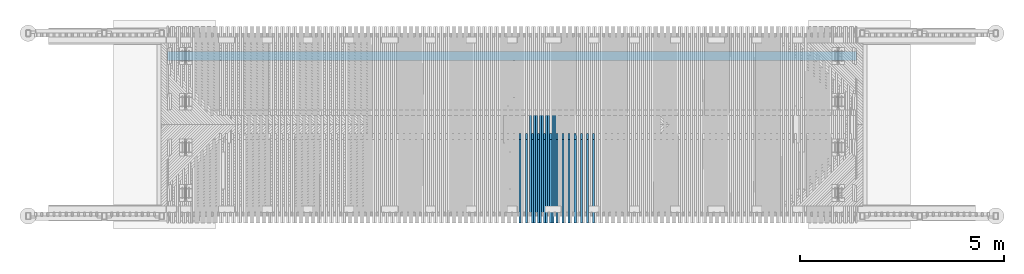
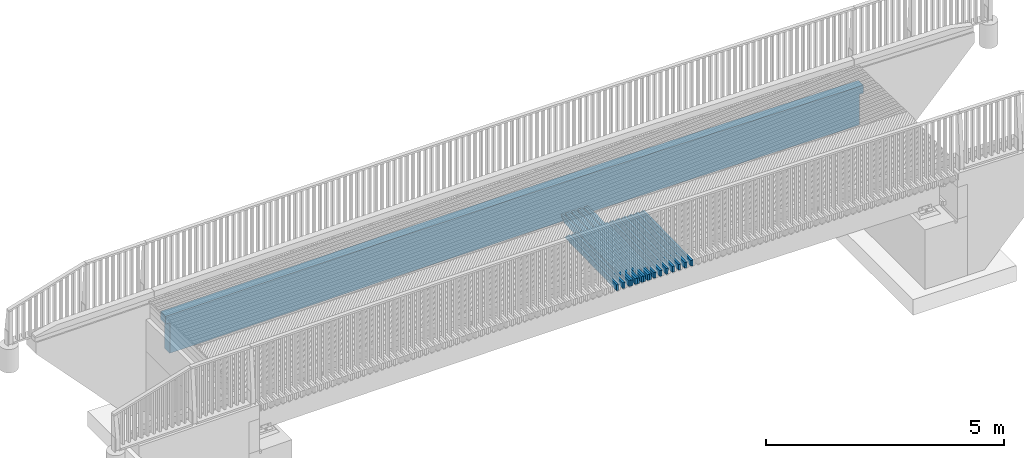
# One storey, part 29 of 47: 23 beams.
"""IFC2X3 building model written with IfcOpenShell, lengths in millimetres."""

from ifc_helpers import new_model, si_unit, frame, origin_with_axes, place, context, subcontext, project, spatial, faceted_brep, material, type_object, element, save


model = new_model("IFC2X3")

# Units and contexts
model_context = context("Model", 3, precision=1e-05, world=origin_with_axes())
body_context = subcontext(model_context, "Body", "Model", "MODEL_VIEW")
ifc_project = project(units=[si_unit("LENGTHUNIT", "METRE", prefix="MILLI"), si_unit("AREAUNIT", "SQUARE_METRE"), si_unit("VOLUMEUNIT", "CUBIC_METRE"), si_unit("MASSUNIT", "GRAM", prefix="KILO"), si_unit("TIMEUNIT", "SECOND"), si_unit("PLANEANGLEUNIT", "RADIAN"), si_unit("SOLIDANGLEUNIT", "STERADIAN"), si_unit("THERMODYNAMICTEMPERATUREUNIT", "DEGREE_CELSIUS"), si_unit("LUMINOUSINTENSITYUNIT", "LUMEN")], contexts=[model_context])

# Site, building, storey
site_placement = place(None, origin_with_axes())
site = spatial("IfcSite", under=ifc_project, at=site_placement, Name="Undefined", CompositionType="ELEMENT")
building_placement = place(site_placement, origin_with_axes())
building = spatial("IfcBuilding", under=site, at=building_placement, Name="Undefined", CompositionType="ELEMENT")
storey_placement = place(building_placement, origin_with_axes())
storey = spatial("IfcBuildingStorey", under=building, at=storey_placement, Name="Undefined", CompositionType="ELEMENT", Elevation=0.0)

# Beams
ifc_material = material(Name="TIMBER/Timber_Undefined")
beam_type_1 = type_object("IfcBeamType", Name="150*50", PredefinedType="NOTDEFINED")
for number, where, z_axis, x_axis, name in (
    (1, (10000.2217509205, 59958.5561921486, 3084.66693727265), (0.00324112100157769, -0.0199960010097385, 0.999794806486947), (6.45149999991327e-05, 0.999800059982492, 0.0199958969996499), "BEAM"),
    (2, (9850.19375383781, 59958.5561921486, 3085.14676261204), (0.00299193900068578, -0.0199960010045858, 0.999795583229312), (5.95309999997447e-05, 0.999800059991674, 0.0199959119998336), "BEAM"),
    (3, (9700.16564182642, 59958.5561921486, 3085.58919600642), (0.00274275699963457, -0.0199960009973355, 0.999796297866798), (5.45469999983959e-05, 0.999800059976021, 0.0199959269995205), "BEAM"),
    (4, (9550.13742420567, 59958.5561921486, 3085.99423742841), (0.00249357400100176, -0.019996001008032, 0.999796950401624), (4.95639999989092e-05, 0.999800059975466, 0.0199959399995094), "BEAM"),
    (5, (9400.10911029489, 59958.5561921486, 3086.361886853), (0.00224439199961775, -0.0199960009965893, 0.99979754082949), (4.45799999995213e-05, 0.999800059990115, 0.0199959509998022), "BEAM"),
    (6, (9250.0807094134, 59958.5561921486, 3086.69214425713), (0.0019952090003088, -0.0199960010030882, 0.999798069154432), (3.95959999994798e-05, 0.999800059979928, 0.0199959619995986), "BEAM"),
    (7, (9100.05223088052, 59958.5561921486, 3086.98500962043), (0.00174602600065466, -0.0199960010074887, 0.999798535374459), (3.46129999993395e-05, 0.999800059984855, 0.0199959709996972), "BEAM"),
):
    element("IfcBeam", number, at=place(storey_placement, frame(where, z_axis=z_axis, x_axis=x_axis)), inside=storey, type_object=beam_type_1, material=ifc_material, Name=name, ObjectType="150*50", context=body_context, shape_type="Brep", body=[
        faceted_brep([(6.18456397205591e-09, -24.9999999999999, -75.0000000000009), (-6.1918399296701e-09, -24.9999999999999, 74.9999999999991), (-6.19911588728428e-09, 25.0, 75.0), (6.18456397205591e-09, 24.9999999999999, -75.0), (2047.96936034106, -25.0000000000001, 75.0), (2047.96935975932, 25.0, 75.0), (2186.42645864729, 25.0, -75.0), (2186.42645915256, -25.0000000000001, -75.0)], [[[0, 1, 2, 3]], [[2, 1, 4, 5]], [[3, 2, 5, 6]], [[0, 3, 6, 7]], [[1, 0, 7, 4]], [[4, 7, 6, 5]]]),
    ])
beam_1_placement = place(storey_placement, frame((9049.97565086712, 60216.5046076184, 3092.2320847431), z_axis=(0.00174602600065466, -0.0199960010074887, 0.999798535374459), x_axis=(3.46129999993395e-05, 0.999800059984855, 0.0199959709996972)))
element("IfcBeam", 8, at=beam_1_placement, inside=storey, type_object=beam_type_1, material=ifc_material, Name="BEAM", ObjectType="150*50", context=body_context, shape_type="Brep", body=[
    faceted_brep([(6.18456397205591e-09, -24.9999999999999, -75.0000000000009), (-6.1918399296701e-09, -24.9999999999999, 74.9999999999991), (-6.19911588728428e-09, 25.0, 75.0), (6.18456397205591e-09, 24.9999999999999, -75.0), (2375.00494220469, 24.9999999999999, -75.0000000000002), (2375.00494218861, -25.0, -75.0), (2510.59248711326, -25.0, 60.5875455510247), (2150.42518973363, -25.0, 75.0000000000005), (2150.42518840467, 25.0, 74.9999999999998), (2510.59248707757, 25.0, 60.5875454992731)], [[[0, 1, 2, 3]], [[0, 3, 4, 5]], [[1, 0, 5, 6, 7]], [[2, 1, 7, 8]], [[4, 3, 2, 8, 9]], [[5, 4, 9, 6]], [[8, 7, 6, 9]]]),
])
beam_2_placement = place(storey_placement, frame((9000.06218519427, 59958.5561921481, 3087.15810196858), z_axis=(0.00166366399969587, -0.0199960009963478, 0.999798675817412), x_axis=(3.32729999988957e-05, 0.999800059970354, 0.0199959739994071)))
element("IfcBeam", 9, at=beam_2_placement, inside=storey, type_object=beam_type_1, material=ifc_material, Name="BEAM", ObjectType="150*50", context=body_context, shape_type="Brep", body=[
    faceted_brep([(6.18456397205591e-09, -24.9999999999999, -75.0000000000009), (-6.1918399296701e-09, -24.9999999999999, 74.9999999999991), (-6.19911588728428e-09, 25.0, 75.0), (6.18456397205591e-09, 24.9999999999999, -75.0), (2633.00494983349, 25.0000000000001, -75.0000000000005), (2633.00495050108, -24.9999999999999, -75.0000000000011), (2768.59248707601, -25.0, 60.5875366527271), (2408.42499905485, -25.0, 74.9999999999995), (2408.42501428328, 25.0000000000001, 74.9999999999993), (2768.5924870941, 25.0, 60.5875375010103)], [[[0, 1, 2, 3]], [[0, 3, 4, 5]], [[1, 0, 5, 6, 7]], [[2, 1, 7, 8]], [[4, 3, 2, 8, 9]], [[5, 4, 9, 6]], [[8, 7, 6, 9]]]),
])
beam_3_placement = place(storey_placement, frame((8950.02368401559, 59958.5561921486, 3087.24048292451), z_axis=(0.00149684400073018, -0.0199960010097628, 0.999798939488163), x_axis=(2.96289999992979e-05, 0.999800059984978, 0.0199959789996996)))
element("IfcBeam", 10, at=beam_3_placement, inside=storey, type_object=beam_type_1, material=ifc_material, Name="BEAM", ObjectType="150*50", context=body_context, shape_type="Brep", body=[
    faceted_brep([(6.18456397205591e-09, -24.9999999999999, -75.0000000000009), (-6.1918399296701e-09, -24.9999999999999, 74.9999999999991), (-6.19911588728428e-09, 25.0, 75.0), (6.18456397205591e-09, 24.9999999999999, -75.0), (2186.42645915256, -25.0000000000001, -75.0), (2047.96936034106, -25.0000000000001, 75.0), (2047.96935975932, 25.0, 75.0), (2186.42645864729, 25.0, -75.0)], [[[0, 1, 2, 3]], [[1, 0, 4, 5]], [[2, 1, 5, 6]], [[3, 2, 6, 7]], [[0, 3, 7, 4]], [[5, 4, 7, 6]]]),
])
beam_4_placement = place(storey_placement, frame((8899.94579781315, 60216.5046076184, 3092.47507714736), z_axis=(0.00149684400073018, -0.0199960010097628, 0.999798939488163), x_axis=(2.96289999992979e-05, 0.999800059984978, 0.0199959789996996)))
element("IfcBeam", 11, at=beam_4_placement, inside=storey, type_object=beam_type_1, material=ifc_material, Name="BEAM", ObjectType="150*50", context=body_context, shape_type="Brep", body=[
    faceted_brep([(6.18456397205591e-09, -24.9999999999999, -75.0000000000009), (-6.1918399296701e-09, -24.9999999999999, 74.9999999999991), (-6.19911588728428e-09, 25.0, 75.0), (6.18456397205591e-09, 24.9999999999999, -75.0), (2375.00494220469, 24.9999999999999, -75.0000000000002), (2375.00494218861, -25.0, -75.0), (2510.59248711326, -25.0, 60.5875455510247), (2150.42518973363, -25.0, 75.0000000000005), (2150.42518840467, 25.0, 74.9999999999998), (2510.59248707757, 25.0, 60.5875454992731)], [[[0, 1, 2, 3]], [[0, 3, 4, 5]], [[1, 0, 5, 6, 7]], [[2, 1, 7, 8]], [[4, 3, 2, 8, 9]], [[5, 4, 9, 6]], [[8, 7, 6, 9]]]),
])
beam_5_placement = place(storey_placement, frame((8850.03359829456, 59958.5561921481, 3087.38865444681), z_axis=(0.00141448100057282, -0.0199960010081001, 0.99979905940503), x_axis=(2.82889999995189e-05, 0.999800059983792, 0.0199959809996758)))
element("IfcBeam", 12, at=beam_5_placement, inside=storey, type_object=beam_type_1, material=ifc_material, Name="BEAM", ObjectType="150*50", context=body_context, shape_type="Brep", body=[
    faceted_brep([(6.18456397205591e-09, -24.9999999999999, -75.0000000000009), (-6.1918399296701e-09, -24.9999999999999, 74.9999999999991), (-6.19911588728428e-09, 25.0, 75.0), (6.18456397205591e-09, 24.9999999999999, -75.0), (2633.00494983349, 25.0000000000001, -75.0000000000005), (2633.00495050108, -24.9999999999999, -75.0000000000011), (2768.59248707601, -25.0, 60.5875366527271), (2408.42499905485, -25.0, 74.9999999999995), (2408.42501428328, 25.0000000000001, 74.9999999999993), (2768.5924870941, 25.0, 60.5875375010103)], [[[0, 1, 2, 3]], [[0, 3, 4, 5]], [[1, 0, 5, 6, 7]], [[2, 1, 7, 8]], [[4, 3, 2, 8, 9]], [[5, 4, 9, 6]], [[8, 7, 6, 9]]]),
])
beam_6_placement = place(storey_placement, frame((8799.99507813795, 59958.5561921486, 3087.45856415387), z_axis=(0.00124766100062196, -0.0199960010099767, 0.99979928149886), x_axis=(2.46449999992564e-05, 0.999800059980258, 0.0199959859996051)))
element("IfcBeam", 13, at=beam_6_placement, inside=storey, type_object=beam_type_1, material=ifc_material, Name="BEAM", ObjectType="150*50", context=body_context, shape_type="Brep", body=[
    faceted_brep([(6.18456397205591e-09, -24.9999999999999, -75.0000000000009), (-6.1918399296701e-09, -24.9999999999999, 74.9999999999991), (-6.19911588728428e-09, 25.0, 75.0), (6.18456397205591e-09, 24.9999999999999, -75.0), (2186.42645915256, -25.0000000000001, -75.0), (2047.96936034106, -25.0000000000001, 75.0), (2047.96935975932, 25.0, 75.0), (2186.42645864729, 25.0, -75.0)], [[[0, 1, 2, 3]], [[1, 0, 4, 5]], [[2, 1, 5, 6]], [[3, 2, 6, 7]], [[0, 3, 7, 4]], [[5, 4, 7, 6]]]),
])
beam_7_placement = place(storey_placement, frame((8749.91588885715, 60216.5046076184, 3092.68067715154), z_axis=(0.00124766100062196, -0.0199960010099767, 0.99979928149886), x_axis=(2.46449999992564e-05, 0.999800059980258, 0.0199959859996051)))
element("IfcBeam", 14, at=beam_7_placement, inside=storey, type_object=beam_type_1, material=ifc_material, Name="BEAM", ObjectType="150*50", context=body_context, shape_type="Brep", body=[
    faceted_brep([(6.18456397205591e-09, -24.9999999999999, -75.0000000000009), (-6.1918399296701e-09, -24.9999999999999, 74.9999999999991), (-6.19911588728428e-09, 25.0, 75.0), (6.18456397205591e-09, 24.9999999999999, -75.0), (2375.00494220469, 24.9999999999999, -75.0000000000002), (2375.00494218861, -25.0, -75.0), (2510.59248711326, -25.0, 60.5875455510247), (2150.42518973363, -25.0, 75.0000000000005), (2150.42518840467, 25.0, 74.9999999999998), (2510.59248707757, 25.0, 60.5875454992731)], [[[0, 1, 2, 3]], [[0, 3, 4, 5]], [[1, 0, 5, 6, 7]], [[2, 1, 7, 8]], [[4, 3, 2, 8, 9]], [[5, 4, 9, 6]], [[8, 7, 6, 9]]]),
])
beam_8_placement = place(storey_placement, frame((8700.00495859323, 59958.5561921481, 3087.5818148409), z_axis=(0.00116529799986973, -0.0199960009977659, 0.99979938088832), x_axis=(2.33059999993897e-05, 0.999800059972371, 0.0199959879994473)))
element("IfcBeam", 15, at=beam_8_placement, inside=storey, type_object=beam_type_1, material=ifc_material, Name="BEAM", ObjectType="150*50", context=body_context, shape_type="Brep", body=[
    faceted_brep([(6.18456397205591e-09, -24.9999999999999, -75.0000000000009), (-6.1918399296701e-09, -24.9999999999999, 74.9999999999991), (-6.19911588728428e-09, 25.0, 75.0), (6.18456397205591e-09, 24.9999999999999, -75.0), (2633.00494983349, 25.0000000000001, -75.0000000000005), (2633.00495050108, -24.9999999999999, -75.0000000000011), (2768.59248707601, -25.0, 60.5875366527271), (2408.42499905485, -25.0, 74.9999999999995), (2408.42501428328, 25.0000000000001, 74.9999999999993), (2768.5924870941, 25.0, 60.5875375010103)], [[[0, 1, 2, 3]], [[0, 3, 4, 5]], [[1, 0, 5, 6, 7]], [[2, 1, 7, 8]], [[4, 3, 2, 8, 9]], [[5, 4, 9, 6]], [[8, 7, 6, 9]]]),
])
beam_9_placement = place(storey_placement, frame((8649.96642256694, 59958.5561921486, 3087.63925329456), z_axis=(0.000998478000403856, -0.0199960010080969, 0.999799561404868), x_axis=(1.96619999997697e-05, 0.999800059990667, 0.0199959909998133)))
element("IfcBeam", 16, at=beam_9_placement, inside=storey, type_object=beam_type_1, material=ifc_material, Name="BEAM", ObjectType="150*50", context=body_context, shape_type="Brep", body=[
    faceted_brep([(6.18456397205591e-09, -24.9999999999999, -75.0000000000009), (-6.1918399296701e-09, -24.9999999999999, 74.9999999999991), (-6.19911588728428e-09, 25.0, 75.0), (6.18456397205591e-09, 24.9999999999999, -75.0), (2186.42645915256, -25.0000000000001, -75.0), (2047.96936034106, -25.0000000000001, 75.0), (2047.96935975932, 25.0, 75.0), (2186.42645864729, 25.0, -75.0)], [[[0, 1, 2, 3]], [[1, 0, 4, 5]], [[2, 1, 5, 6]], [[3, 2, 6, 7]], [[0, 3, 7, 4]], [[5, 4, 7, 6]]]),
])
beam_10_placement = place(storey_placement, frame((8599.88593331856, 60216.5046076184, 3092.84888474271), z_axis=(0.000998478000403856, -0.0199960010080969, 0.999799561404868), x_axis=(1.96619999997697e-05, 0.999800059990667, 0.0199959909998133)))
element("IfcBeam", 17, at=beam_10_placement, inside=storey, type_object=beam_type_1, material=ifc_material, Name="BEAM", ObjectType="150*50", context=body_context, shape_type="Brep", body=[
    faceted_brep([(6.18456397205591e-09, -24.9999999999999, -75.0000000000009), (-6.1918399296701e-09, -24.9999999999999, 74.9999999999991), (-6.19911588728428e-09, 25.0, 75.0), (6.18456397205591e-09, 24.9999999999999, -75.0), (2375.00494220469, 24.9999999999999, -75.0000000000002), (2375.00494218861, -25.0, -75.0), (2510.59248711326, -25.0, 60.5875455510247), (2150.42518973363, -25.0, 75.0000000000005), (2150.42518840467, 25.0, 74.9999999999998), (2510.59248707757, 25.0, 60.5875454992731)], [[[0, 1, 2, 3]], [[0, 3, 4, 5]], [[1, 0, 5, 6, 7]], [[2, 1, 7, 8]], [[4, 3, 2, 8, 9]], [[5, 4, 9, 6]], [[8, 7, 6, 9]]]),
])
beam_11_placement = place(storey_placement, frame((8549.97627540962, 59958.5561921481, 3087.73758313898), z_axis=(0.00091611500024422, -0.0199960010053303, 0.999799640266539), x_axis=(1.83219999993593e-05, 0.999800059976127, 0.0199959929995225)))
element("IfcBeam", 18, at=beam_11_placement, inside=storey, type_object=beam_type_1, material=ifc_material, Name="BEAM", ObjectType="150*50", context=body_context, shape_type="Brep", body=[
    faceted_brep([(6.18456397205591e-09, -24.9999999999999, -75.0000000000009), (-6.1918399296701e-09, -24.9999999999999, 74.9999999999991), (-6.19911588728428e-09, 25.0, 75.0), (6.18456397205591e-09, 24.9999999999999, -75.0), (2633.00494983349, 25.0000000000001, -75.0000000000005), (2633.00495050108, -24.9999999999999, -75.0000000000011), (2768.59248707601, -25.0, 60.5875366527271), (2408.42499905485, -25.0, 74.9999999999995), (2408.42501428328, 25.0000000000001, 74.9999999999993), (2768.5924870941, 25.0, 60.5875375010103)], [[[0, 1, 2, 3]], [[0, 3, 4, 5]], [[1, 0, 5, 6, 7]], [[2, 1, 7, 8]], [[4, 3, 2, 8, 9]], [[5, 4, 9, 6]], [[8, 7, 6, 9]]]),
])
beam_12_placement = place(storey_placement, frame((8499.9377266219, 59958.5561921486, 3087.78255033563), z_axis=(0.000749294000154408, -0.0199960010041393, 0.999799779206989), x_axis=(1.46779999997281e-05, 0.999800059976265, 0.0199959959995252)))
element("IfcBeam", 19, at=beam_12_placement, inside=storey, type_object=beam_type_1, material=ifc_material, Name="BEAM", ObjectType="150*50", context=body_context, shape_type="Brep", body=[
    faceted_brep([(6.18456397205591e-09, -24.9999999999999, -75.0000000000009), (-6.1918399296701e-09, -24.9999999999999, 74.9999999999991), (-6.19911588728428e-09, 25.0, 75.0), (6.18456397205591e-09, 24.9999999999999, -75.0), (2186.42645915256, -25.0000000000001, -75.0), (2047.96936034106, -25.0000000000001, 75.0), (2047.96935975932, 25.0, 75.0), (2186.42645864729, 25.0, -75.0)], [[[0, 1, 2, 3]], [[1, 0, 4, 5]], [[2, 1, 5, 6]], [[3, 2, 6, 7]], [[0, 3, 7, 4]], [[5, 4, 7, 6]]]),
])
beam_13_placement = place(storey_placement, frame((8449.8559405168, 60216.5046076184, 3092.97969991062), z_axis=(0.000749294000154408, -0.0199960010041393, 0.999799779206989), x_axis=(1.46779999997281e-05, 0.999800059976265, 0.0199959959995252)))
element("IfcBeam", 20, at=beam_13_placement, inside=storey, type_object=beam_type_1, material=ifc_material, Name="BEAM", ObjectType="150*50", context=body_context, shape_type="Brep", body=[
    faceted_brep([(6.18456397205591e-09, -24.9999999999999, -75.0000000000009), (-6.1918399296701e-09, -24.9999999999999, 74.9999999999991), (-6.19911588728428e-09, 25.0, 75.0), (6.18456397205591e-09, 24.9999999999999, -75.0), (2375.00494220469, 24.9999999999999, -75.0000000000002), (2375.00494218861, -25.0, -75.0), (2510.59248711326, -25.0, 60.5875455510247), (2150.42518973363, -25.0, 75.0000000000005), (2150.42518840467, 25.0, 74.9999999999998), (2510.59248707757, 25.0, 60.5875454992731)], [[[0, 1, 2, 3]], [[0, 3, 4, 5]], [[1, 0, 5, 6, 7]], [[2, 1, 7, 8]], [[4, 3, 2, 8, 9]], [[5, 4, 9, 6]], [[8, 7, 6, 9]]]),
])
for number, where, z_axis, x_axis, name in (
    (21, (8349.90899962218, 59958.5561921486, 3087.888455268), (0.000500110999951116, -0.0199960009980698, 0.999799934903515), (9.69399999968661e-06, 0.999800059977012, 0.0199959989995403), "BEAM"),
    (22, (8199.88025088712, 59958.5561921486, 3087.95696808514), (0.000250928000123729, -0.019996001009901, 0.999800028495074), (4.71100000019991e-06, 0.999800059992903, 0.019995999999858), "BEAM"),
):
    element("IfcBeam", number, at=place(storey_placement, frame(where, z_axis=z_axis, x_axis=x_axis)), inside=storey, type_object=beam_type_1, material=ifc_material, Name=name, ObjectType="150*50", context=body_context, shape_type="Brep", body=[
        faceted_brep([(6.18456397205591e-09, -24.9999999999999, -75.0000000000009), (-6.1918399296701e-09, -24.9999999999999, 74.9999999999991), (-6.19911588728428e-09, 25.0, 75.0), (6.18456397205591e-09, 24.9999999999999, -75.0), (2186.42645915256, -25.0000000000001, -75.0), (2047.96936034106, -25.0000000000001, 75.0), (2047.96935975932, 25.0, 75.0), (2186.42645864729, 25.0, -75.0)], [[[0, 1, 2, 3]], [[1, 0, 4, 5]], [[2, 1, 5, 6]], [[3, 2, 6, 7]], [[0, 3, 7, 4]], [[5, 4, 7, 6]]]),
    ])
beam_type_2 = type_object("IfcBeamType", Name="990*215", PredefinedType="NOTDEFINED")
beam_14_placement = place(storey_placement, frame((243.613169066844, 64045.0, 2480.11879463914), z_axis=(0.0, 0.0, 1.0), x_axis=(1.0, 0.0, 0.0)))
element("IfcBeam", 23, at=beam_14_placement, inside=storey, type_object=beam_type_2, material=ifc_material, Name="PALKKI", ObjectType="990*215", context=body_context, shape_type="Brep", body=[
    faceted_brep([(16106.3868309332, 107.5, -494.790894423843), (16106.3868309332, -107.5, -494.790894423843), (16080.5342107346, -107.5, -494.790894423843), (15793.4597682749, -107.5, -494.790894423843), (15506.3868309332, -107.5, -494.958794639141), (15506.3868309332, 107.5, -494.958794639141), (15793.4597682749, 107.5, -494.790894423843), (16080.5342107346, 107.5, -494.790894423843), (16106.3868309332, 107.499999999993, 285.209105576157), (16106.3868309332, -107.5, 285.209105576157), (16206.3868309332, 107.499999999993, 285.209105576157), (16206.3868309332, -107.5, 285.209105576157), (16206.3868309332, 107.5, 485.682039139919), (16206.3868309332, -107.5, 485.682039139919), (-627.370013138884, 107.5, 486.625216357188), (-627.370013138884, -107.5, 486.625216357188), (-316.879497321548, -107.5, 490.87213125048), (-316.879497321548, 107.5, 490.87213125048), (-693.613169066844, -107.5, 485.684940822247), (-693.613169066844, -107.5, 285.209105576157), (-624.563039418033, -107.5, 285.209105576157), (-693.613169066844, 107.5, 485.684940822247), (-693.613169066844, 107.499999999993, 285.209105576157), (-624.563039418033, 107.5, 285.209105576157), (-593.613169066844, 107.500000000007, 285.209105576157), (-593.613169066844, -107.5, 285.209105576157), (-593.613169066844, 107.499999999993, -494.790894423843), (-593.613169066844, -107.5, -494.790894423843), (-303.651924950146, -107.5, -494.790894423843), (-6.38683093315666, -107.5, 494.958794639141), (6.38683093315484, -107.5, -494.958794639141), (-6.38683093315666, 107.5, 494.958794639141), (6.38683093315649, 107.5, -494.790894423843), (304.107903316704, 107.5, 498.885205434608), (316.370645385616, 107.5, -491.038844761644), (-303.651924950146, 107.5, -494.790894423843), (316.370645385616, -107.5, -491.038844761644), (304.107903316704, -107.5, 498.885205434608), (614.604622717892, -107.5, 502.651362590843), (614.604622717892, 107.5, 502.651362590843), (626.356441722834, 107.5, -487.278884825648), (626.356441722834, -107.5, -487.278884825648), (936.344137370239, -107.5, -483.678915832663), (925.103244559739, -107.5, 506.257265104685), (925.103244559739, 107.5, 506.257265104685), (936.344137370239, 107.5, -483.678915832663), (1246.33364975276, 107.5, -480.238938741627), (1246.33364975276, -107.5, -480.238938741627), (1235.60368613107, -107.5, 509.702912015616), (1235.60368613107, 107.5, 509.702912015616), (1546.10586472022, 107.5, 512.988302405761), (1556.32489629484, 107.5, -476.958954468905), (1556.32489629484, -107.5, -476.958954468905), (1546.10586472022, -107.5, 512.988302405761), (1856.60969761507, -107.5, 516.113435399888), (1856.60969761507, 107.5, 516.113435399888), (1866.31779442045, 107.5, -473.838963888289), (1866.31779442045, -107.5, -473.838963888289), (2176.31226155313, -107.5, -470.878967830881), (2167.11510210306, -107.5, 519.078310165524), (2167.11510210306, 107.5, 519.078310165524), (2176.31226155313, 107.5, -470.878967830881), (2486.30821511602, 107.5, -468.078967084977), (2486.30821511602, -107.5, -468.078967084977), (2477.6219954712, -107.5, 521.882925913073), (2477.6219954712, 107.5, 521.882925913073), (2788.13029500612, 107.5, 524.527281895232), (2796.30557253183, 107.5, -465.438962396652), (2796.30557253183, -107.5, -465.438962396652), (2788.13029500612, -107.5, 524.527281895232), (3098.63991799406, -107.5, 527.011377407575), (3098.63991799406, 107.5, 527.011377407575), (3106.30425122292, 107.5, -462.958954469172), (3106.30425122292, -107.5, -462.958954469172), (3416.30416861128, -107.5, -460.638943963), (3409.15078172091, -107.5, 529.335211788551), (3409.15078172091, 107.5, 529.335211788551), (3416.30416861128, 107.5, -460.638943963), (3726.30524211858, 107.5, -458.478931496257), (3726.30524211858, -107.5, -458.478931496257), (3719.66280347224, -107.5, 531.49878441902), (3719.66280347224, 107.5, 531.49878441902), (4030.1759005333, 107.5, 533.502094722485), (4036.3073891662, 107.5, -456.478917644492), (4036.3073891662, -107.5, -456.478917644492), (4030.1759005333, -107.5, 533.502094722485), (4340.68999018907, -107.5, 535.345142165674), (4340.68999018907, 107.5, 535.345142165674), (4346.3105271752, 107.5, -454.638902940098), (4346.3105271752, -107.5, -454.638902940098), (4656.31457356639, -107.5, -452.958887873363), (4651.20498972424, -107.5, 537.027926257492), (4651.20498972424, 107.5, 537.027926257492), (4656.31457356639, 107.5, -452.958887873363), (4966.31944576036, 107.5, -451.438872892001), (4966.31944576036, -107.5, -451.438872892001), (4961.72081642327, -107.5, 538.550446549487), (4961.72081642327, 107.5, 538.550446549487), (5272.23738757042, 107.5, 539.912702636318), (5276.32506117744, 107.5, -450.078858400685), (5276.32506117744, -107.5, -450.078858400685), (5272.23738757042, -107.5, 539.912702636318), (5582.75462044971, -107.5, 541.114694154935), (5582.75462044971, 107.5, 541.114694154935), (5586.33133723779, 107.5, -448.878844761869), (5586.33133723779, -107.5, -448.878844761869), (5896.33819136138, -107.5, -447.838832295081), (5893.27243234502, -107.5, 542.156420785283), (5893.27243234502, 107.5, 542.156420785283), (5896.33819136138, 107.5, -447.838832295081), (6206.34554096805, 107.5, -446.958821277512), (6206.34554096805, -107.5, -446.958821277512), (6203.79074054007, -107.5, 543.037882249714), (6203.79074054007, 107.5, 543.037882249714), (6514.30946231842, 107.5, 543.759078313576), (6516.35330347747, 107.5, -446.238811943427), (6516.35330347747, -107.5, -446.238811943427), (6514.30946231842, -107.5, 543.759078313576), (6824.82851496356, -107.5, 544.320008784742), (6824.82851496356, 107.5, 544.320008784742), (6826.36139630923, 107.5, -445.678804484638), (6826.36139630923, -107.5, -445.678804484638), (7136.36973688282, -107.5, -445.278799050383), (7135.34781575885, -107.5, 544.720673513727), (7135.34781575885, 107.5, 544.720673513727), (7136.36973688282, 107.5, -445.278799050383), (7446.37824261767, 107.5, -445.038795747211), (7446.37824261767, -107.5, -445.038795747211), (7445.86728198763, -107.5, 544.961072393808), (7445.86728198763, 107.5, 544.961072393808), (7756.38683093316, 107.5, 545.041205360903), (7756.38683093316, 107.5, -444.958794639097), (7756.38683093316, -107.5, -444.958794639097), (7756.38683093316, -107.5, 545.041205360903), (8066.90637987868, -107.5, 544.961072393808), (8066.90637987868, 107.5, 544.961072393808), (8066.39541924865, 107.5, -445.038795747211), (8066.39541924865, -107.5, -445.038795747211), (8376.40392498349, -107.5, -445.278799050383), (8377.42584610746, -107.5, 544.720673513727), (8377.42584610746, 107.5, 544.720673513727), (8376.40392498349, 107.5, -445.278799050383), (8686.41226555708, 107.5, -445.678804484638), (8686.41226555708, -107.5, -445.678804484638), (8687.94514690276, -107.5, 544.320008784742), (8687.94514690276, 107.5, 544.320008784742), (8998.46419954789, 107.5, 543.759078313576), (8996.42035838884, 107.5, -446.238811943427), (8996.42035838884, -107.5, -446.238811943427), (8998.46419954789, -107.5, 543.759078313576), (9308.98292132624, -107.5, 543.037882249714), (9308.98292132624, 107.5, 543.037882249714), (9306.42812089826, 107.5, -446.958821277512), (9306.42812089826, -107.5, -446.958821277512), (9616.43547050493, -107.5, -447.838832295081), (9619.50122952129, -107.5, 542.156420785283), (9619.50122952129, 107.5, 542.156420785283), (9616.43547050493, 107.5, -447.838832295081), (9926.44232462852, 107.5, -448.878844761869), (9926.44232462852, -107.5, -448.878844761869), (9930.0190414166, -107.5, 541.114694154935), (9930.0190414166, 107.5, 541.114694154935), (10240.5362742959, 107.5, 539.912702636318), (10236.4486006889, 107.5, -450.078858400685), (10236.4486006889, -107.5, -450.078858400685), (10240.5362742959, -107.5, 539.912702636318), (10551.052845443, -107.5, 538.550446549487), (10551.052845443, 107.5, 538.550446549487), (10546.454216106, 107.5, -451.438872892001), (10546.454216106, -107.5, -451.438872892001), (10856.4590882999, -107.5, -452.958887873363), (10861.5686721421, -107.5, 537.027926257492), (10861.5686721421, 107.5, 537.027926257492), (10856.4590882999, 107.5, -452.958887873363), (11166.4631346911, 107.5, -454.638902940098), (11166.4631346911, -107.5, -454.638902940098), (11172.0836716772, -107.5, 535.345142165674), (11172.0836716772, 107.5, 535.345142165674), (11482.597761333, 107.5, 533.502094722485), (11476.4662727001, 107.5, -456.478917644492), (11476.4662727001, -107.5, -456.478917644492), (11482.597761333, -107.5, 533.502094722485), (11793.1108583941, -107.5, 531.49878441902), (11793.1108583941, 107.5, 531.49878441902), (11786.4684197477, 107.5, -458.478931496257), (11786.4684197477, -107.5, -458.478931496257), (12096.469493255, -107.5, -460.638943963), (12103.6228801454, -107.5, 529.335211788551), (12103.6228801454, 107.5, 529.335211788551), (12096.469493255, 107.5, -460.638943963), (12406.4694106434, 107.5, -462.958954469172), (12406.4694106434, -107.5, -462.958954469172), (12414.1337438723, -107.5, 527.011377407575), (12414.1337438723, 107.5, 527.011377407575), (12724.6433668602, 107.5, 524.527281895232), (12716.4680893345, 107.5, -465.438962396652), (12716.4680893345, -107.5, -465.438962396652), (12724.6433668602, -107.5, 524.527281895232), (13035.1516663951, -107.5, 521.882925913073), (13035.1516663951, 107.5, 521.882925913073), (13026.4654467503, 107.5, -468.078967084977), (13026.4654467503, -107.5, -468.078967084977), (13336.4614003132, -107.5, -470.878967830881), (13345.6585597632, -107.5, 519.078310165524), (13345.6585597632, 107.5, 519.078310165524), (13336.4614003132, 107.5, -470.878967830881), (13646.4558674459, 107.5, -473.838963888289), (13646.4558674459, -107.5, -473.838963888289), (13656.1639642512, -107.5, 516.113435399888), (13656.1639642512, 107.5, 516.113435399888), (13966.6677971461, 107.5, 512.988302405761), (13956.4487655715, 107.5, -476.958954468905), (13956.4487655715, -107.5, -476.958954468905), (13966.6677971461, -107.5, 512.988302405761), (14277.1699757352, -107.5, 509.702912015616), (14277.1699757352, 107.5, 509.702912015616), (14266.4400121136, 107.5, -480.238938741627), (14266.4400121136, -107.5, -480.238938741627), (14576.4295244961, -107.5, -483.678915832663), (14587.6704173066, -107.5, 506.257265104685), (14587.6704173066, 107.5, 506.257265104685), (14576.4295244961, 107.5, -483.678915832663), (14886.4172201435, 107.5, -487.278884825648), (14886.4172201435, -107.5, -487.278884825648), (14898.1690391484, -107.5, 502.651362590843), (14898.1690391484, 107.5, 502.651362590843), (15208.6657585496, 107.5, 498.885205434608), (15196.4030164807, 107.5, -491.038844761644), (15196.4030164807, -107.5, -491.038844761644), (15208.6657585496, -107.5, 498.885205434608), (15519.1604927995, -107.5, 494.958794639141), (15519.1604927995, 107.5, 494.958794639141), (15806.6537751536, -107.5, 491.180342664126), (15806.6537751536, 107.5, 491.180342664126), (16094.1452189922, -107.5, 487.264500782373), (16094.1452189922, 107.5, 487.264500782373)], [[[0, 1, 2, 3, 4, 5, 6, 7]], [[8, 9, 1, 0]], [[10, 11, 9, 8]], [[12, 13, 11, 10]], [[14, 15, 16, 17]], [[15, 18, 19, 20]], [[21, 22, 19, 18]], [[15, 14, 21, 18]], [[21, 14, 23, 22]], [[24, 25, 20, 19, 22, 23]], [[26, 27, 25, 24]], [[16, 15, 20, 25, 27, 28]], [[29, 16, 28, 30]], [[17, 16, 29, 31]], [[32, 31, 33, 34]], [[17, 31, 32, 35]], [[24, 23, 14, 17, 35, 26]], [[32, 30, 28, 27, 26, 35]], [[34, 36, 30, 32]], [[29, 30, 36, 37]], [[31, 29, 37, 33]], [[33, 37, 38, 39]], [[34, 33, 39, 40]], [[36, 34, 40, 41]], [[37, 36, 41, 38]], [[38, 41, 42, 43]], [[39, 38, 43, 44]], [[40, 39, 44, 45]], [[41, 40, 45, 42]], [[42, 45, 46, 47]], [[43, 42, 47, 48]], [[44, 43, 48, 49]], [[45, 44, 49, 46]], [[46, 49, 50, 51]], [[47, 46, 51, 52]], [[48, 47, 52, 53]], [[49, 48, 53, 50]], [[50, 53, 54, 55]], [[51, 50, 55, 56]], [[52, 51, 56, 57]], [[53, 52, 57, 54]], [[54, 57, 58, 59]], [[55, 54, 59, 60]], [[56, 55, 60, 61]], [[57, 56, 61, 58]], [[58, 61, 62, 63]], [[59, 58, 63, 64]], [[60, 59, 64, 65]], [[61, 60, 65, 62]], [[62, 65, 66, 67]], [[63, 62, 67, 68]], [[64, 63, 68, 69]], [[65, 64, 69, 66]], [[66, 69, 70, 71]], [[67, 66, 71, 72]], [[68, 67, 72, 73]], [[69, 68, 73, 70]], [[70, 73, 74, 75]], [[71, 70, 75, 76]], [[72, 71, 76, 77]], [[73, 72, 77, 74]], [[74, 77, 78, 79]], [[75, 74, 79, 80]], [[76, 75, 80, 81]], [[77, 76, 81, 78]], [[78, 81, 82, 83]], [[79, 78, 83, 84]], [[80, 79, 84, 85]], [[81, 80, 85, 82]], [[82, 85, 86, 87]], [[83, 82, 87, 88]], [[84, 83, 88, 89]], [[85, 84, 89, 86]], [[86, 89, 90, 91]], [[87, 86, 91, 92]], [[88, 87, 92, 93]], [[89, 88, 93, 90]], [[90, 93, 94, 95]], [[91, 90, 95, 96]], [[92, 91, 96, 97]], [[93, 92, 97, 94]], [[94, 97, 98, 99]], [[95, 94, 99, 100]], [[96, 95, 100, 101]], [[97, 96, 101, 98]], [[98, 101, 102, 103]], [[99, 98, 103, 104]], [[100, 99, 104, 105]], [[101, 100, 105, 102]], [[102, 105, 106, 107]], [[103, 102, 107, 108]], [[104, 103, 108, 109]], [[105, 104, 109, 106]], [[106, 109, 110, 111]], [[107, 106, 111, 112]], [[108, 107, 112, 113]], [[109, 108, 113, 110]], [[110, 113, 114, 115]], [[111, 110, 115, 116]], [[112, 111, 116, 117]], [[113, 112, 117, 114]], [[114, 117, 118, 119]], [[115, 114, 119, 120]], [[116, 115, 120, 121]], [[117, 116, 121, 118]], [[118, 121, 122, 123]], [[119, 118, 123, 124]], [[120, 119, 124, 125]], [[121, 120, 125, 122]], [[122, 125, 126, 127]], [[123, 122, 127, 128]], [[124, 123, 128, 129]], [[125, 124, 129, 126]], [[126, 129, 130, 131]], [[127, 126, 131, 132]], [[128, 127, 132, 133]], [[129, 128, 133, 130]], [[130, 133, 134, 135]], [[131, 130, 135, 136]], [[132, 131, 136, 137]], [[133, 132, 137, 134]], [[134, 137, 138, 139]], [[135, 134, 139, 140]], [[136, 135, 140, 141]], [[137, 136, 141, 138]], [[138, 141, 142, 143]], [[139, 138, 143, 144]], [[140, 139, 144, 145]], [[141, 140, 145, 142]], [[142, 145, 146, 147]], [[143, 142, 147, 148]], [[144, 143, 148, 149]], [[145, 144, 149, 146]], [[146, 149, 150, 151]], [[147, 146, 151, 152]], [[148, 147, 152, 153]], [[149, 148, 153, 150]], [[150, 153, 154, 155]], [[151, 150, 155, 156]], [[152, 151, 156, 157]], [[153, 152, 157, 154]], [[154, 157, 158, 159]], [[155, 154, 159, 160]], [[156, 155, 160, 161]], [[157, 156, 161, 158]], [[158, 161, 162, 163]], [[159, 158, 163, 164]], [[160, 159, 164, 165]], [[161, 160, 165, 162]], [[162, 165, 166, 167]], [[163, 162, 167, 168]], [[164, 163, 168, 169]], [[165, 164, 169, 166]], [[166, 169, 170, 171]], [[167, 166, 171, 172]], [[168, 167, 172, 173]], [[169, 168, 173, 170]], [[170, 173, 174, 175]], [[171, 170, 175, 176]], [[172, 171, 176, 177]], [[173, 172, 177, 174]], [[174, 177, 178, 179]], [[175, 174, 179, 180]], [[176, 175, 180, 181]], [[177, 176, 181, 178]], [[178, 181, 182, 183]], [[179, 178, 183, 184]], [[180, 179, 184, 185]], [[181, 180, 185, 182]], [[182, 185, 186, 187]], [[183, 182, 187, 188]], [[184, 183, 188, 189]], [[185, 184, 189, 186]], [[186, 189, 190, 191]], [[187, 186, 191, 192]], [[188, 187, 192, 193]], [[189, 188, 193, 190]], [[190, 193, 194, 195]], [[191, 190, 195, 196]], [[192, 191, 196, 197]], [[193, 192, 197, 194]], [[194, 197, 198, 199]], [[195, 194, 199, 200]], [[196, 195, 200, 201]], [[197, 196, 201, 198]], [[198, 201, 202, 203]], [[199, 198, 203, 204]], [[200, 199, 204, 205]], [[201, 200, 205, 202]], [[202, 205, 206, 207]], [[203, 202, 207, 208]], [[204, 203, 208, 209]], [[205, 204, 209, 206]], [[206, 209, 210, 211]], [[207, 206, 211, 212]], [[208, 207, 212, 213]], [[209, 208, 213, 210]], [[210, 213, 214, 215]], [[211, 210, 215, 216]], [[212, 211, 216, 217]], [[213, 212, 217, 214]], [[214, 217, 218, 219]], [[215, 214, 219, 220]], [[216, 215, 220, 221]], [[217, 216, 221, 218]], [[218, 221, 222, 223]], [[219, 218, 223, 224]], [[220, 219, 224, 225]], [[221, 220, 225, 222]], [[222, 225, 226, 227]], [[223, 222, 227, 228]], [[224, 223, 228, 229]], [[225, 224, 229, 226]], [[226, 229, 230, 231]], [[231, 230, 232, 233]], [[233, 232, 234, 235]], [[8, 0, 7, 235, 12, 10]], [[233, 235, 7, 6]], [[231, 233, 6, 5]], [[227, 226, 231, 5]], [[228, 227, 5, 4]], [[229, 228, 4, 230]], [[232, 230, 4, 3]], [[234, 232, 3, 2]], [[234, 2, 1, 9, 11, 13]], [[235, 234, 13, 12]]]),
])

save(model, "model.ifc")
